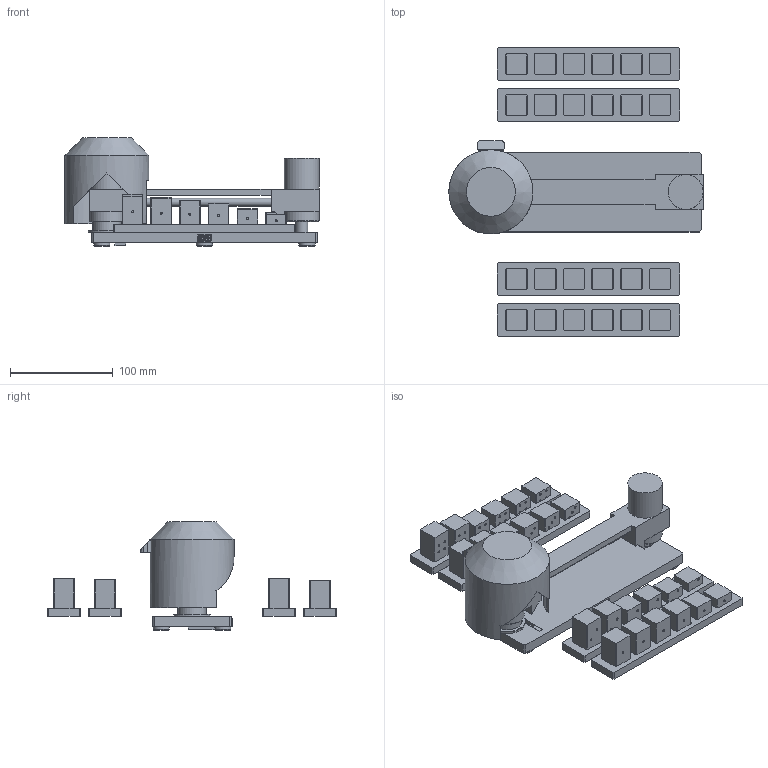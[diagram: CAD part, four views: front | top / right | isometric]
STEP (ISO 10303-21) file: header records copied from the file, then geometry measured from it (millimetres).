
FILE_DESCRIPTION(('Open CASCADE Model'),'2;1');
FILE_NAME('Open CASCADE Shape Model','2026-08-23T09:32:18',('Author'),( 'Open CASCADE'),'Open CASCADE STEP processor 7.9','Open CASCADE 7.9' ,'Unknown');
FILE_SCHEMA(('AUTOMOTIVE_DESIGN { 1 0 10303 214 1 1 1 1 }'));
Length unit declared in the file: millimetre
Products named in the file (38): clearance; gantry_base; screw_shroud; column_screw; detent_leaf; post_guide; stop_ring; yoke; knob_hood; bar_buy_not_print; rail_01; piece_a1; piece_a2; piece_a3; piece_a4; piece_a5; piece_a6; rail_02; piece_b1; piece_b2; piece_b3; piece_b4; piece_b5; piece_b6; rail_03; piece_c1; piece_c2; piece_c3; piece_c4; piece_c5; piece_c6; rail_04; piece_d1; piece_d2; piece_d3; piece_d4; piece_d5; piece_d6
Assembly tree (37 placements, depth 2):
  clearance
    gantry_base
    screw_shroud
    column_screw
    detent_leaf
    post_guide
    stop_ring
    yoke
    knob_hood
    bar_buy_not_print
    rail_01
    piece_a1
    piece_a2
    piece_a3
    piece_a4
    piece_a5
    piece_a6
    rail_02
    piece_b1
    piece_b2
    piece_b3
    piece_b4
    piece_b5
    piece_b6
    rail_03
    piece_c1
    piece_c2
    piece_c3
    piece_c4
    piece_c5
    piece_c6
    rail_04
    piece_d1
    piece_d2
    piece_d3
    piece_d4
    piece_d5
    piece_d6
Bounding box: 248 x 282 x 105.9 mm (x, y, z)
Volume: 705973.8 mm3; surface area: 279663.2 mm2
Topology: 37 solids, 37 shells, 1449 faces, 3676 edges, 2435 vertices
Faces by surface type: plane 963, extrusion 289, cylinder 155, cone 35, bspline 6, sphere 1
Full cylindrical faces by diameter (mm): 2 x60, 6 x1, 8 x1, 11.88 x1, 11.9 x1, 12 x1, 12.4 x1, 13.535 x1, 13.835 x19, 14.185 x9, 15.4 x1, 16 x3, 17.4 x1, 24.4 x1, 27.88 x1, 28 x1, 28.6 x1, 30 x1, 34 x3, 36 x1, 78.8 x1, 82 x1
Entity records: 106711 total; most frequent: CARTESIAN_POINT 33921, DIRECTION 11915, VECTOR 8641, LINE 8352, ORIENTED_EDGE 7354, PCURVE 7348, DEFINITIONAL_REPRESENTATION 7348, EDGE_CURVE 3674
